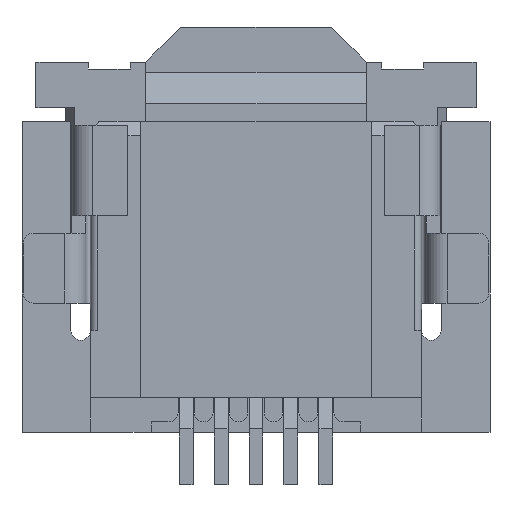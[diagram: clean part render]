
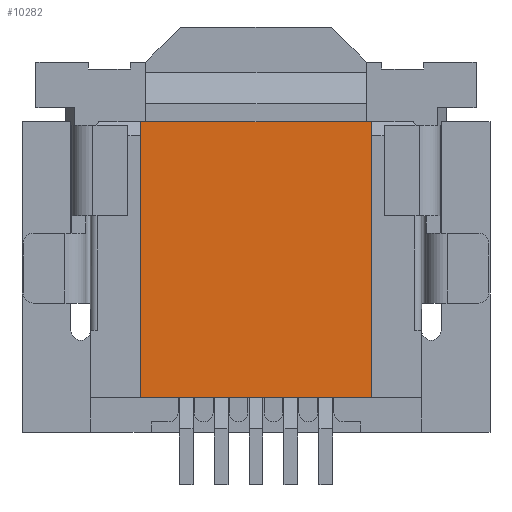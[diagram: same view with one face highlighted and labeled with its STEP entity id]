
A CAD part, front view. The second image highlights one B-rep face of the part: STEP entity #10282.
In plain terms, the highlighted planar face has unit normal (0, -1, 0).
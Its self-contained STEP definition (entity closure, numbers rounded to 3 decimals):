
#57=DIRECTION('',(-1.,0.,0.));
#58=VECTOR('',#57,3.3);
#59=CARTESIAN_POINT('',(5.,0.,-3.95));
#60=LINE('',#59,#58);
#61=DIRECTION('',(1.,0.,0.));
#62=VECTOR('',#61,3.3);
#63=CARTESIAN_POINT('',(1.7,0.,0.));
#64=LINE('',#63,#62);
#65=DIRECTION('',(0.,0.,-1.));
#66=VECTOR('',#65,3.95);
#67=CARTESIAN_POINT('',(5.,0.,0.));
#68=LINE('',#67,#66);
#5661=DIRECTION('',(0.,0.,-1.));
#5662=VECTOR('',#5661,3.95);
#5663=CARTESIAN_POINT('',(1.7,0.,0.));
#5664=LINE('',#5663,#5662);
#7759=CARTESIAN_POINT('',(5.,0.,-3.95));
#7760=VERTEX_POINT('',#7759);
#7761=CARTESIAN_POINT('',(5.,0.,0.));
#7762=VERTEX_POINT('',#7761);
#7773=CARTESIAN_POINT('',(1.7,0.,-3.95));
#7774=VERTEX_POINT('',#7773);
#7775=CARTESIAN_POINT('',(1.7,0.,0.));
#7776=VERTEX_POINT('',#7775);
#10268=CARTESIAN_POINT('',(3.35,0.,-1.975));
#10269=DIRECTION('',(0.,1.,0.));
#10270=DIRECTION('',(0.,0.,-1.));
#10271=AXIS2_PLACEMENT_3D('',#10268,#10269,#10270);
#10272=PLANE('',#10271);
#10274=ORIENTED_EDGE('',*,*,#10273,.T.);
#10276=ORIENTED_EDGE('',*,*,#10275,.F.);
#10277=ORIENTED_EDGE('',*,*,#10220,.T.);
#10279=ORIENTED_EDGE('',*,*,#10278,.T.);
#10280=EDGE_LOOP('',(#10274,#10276,#10277,#10279));
#10281=FACE_OUTER_BOUND('',#10280,.F.);
#10220=EDGE_CURVE('',#7776,#7762,#64,.T.);
#10273=EDGE_CURVE('',#7760,#7774,#60,.T.);
#10275=EDGE_CURVE('',#7776,#7774,#5664,.T.);
#10278=EDGE_CURVE('',#7762,#7760,#68,.T.);
#10282=ADVANCED_FACE('',(#10281),#10272,.F.);
